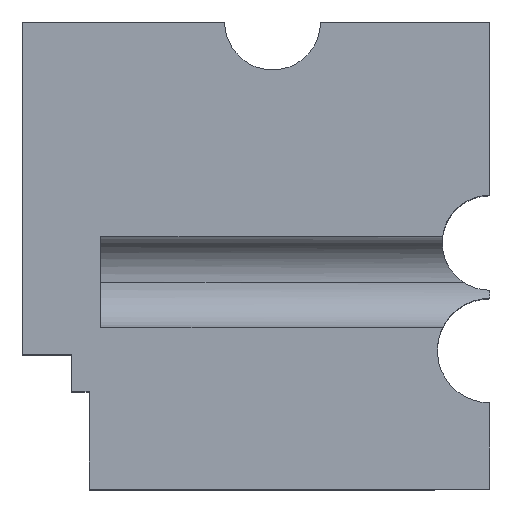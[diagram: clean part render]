
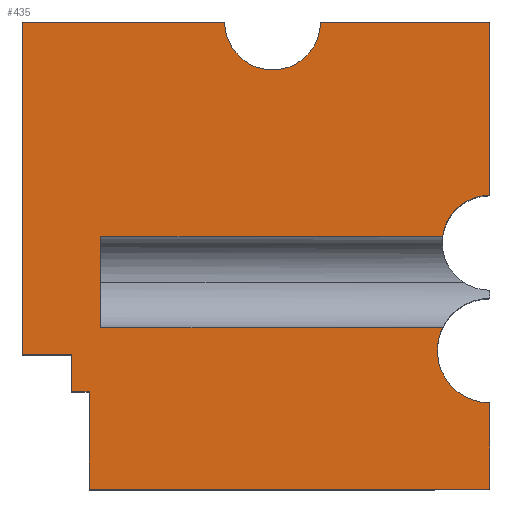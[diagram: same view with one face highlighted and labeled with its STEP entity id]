
A CAD part, top view. The second image highlights one B-rep face of the part: STEP entity #435.
In plain terms, the highlighted planar face has unit normal (0, 0, 1).
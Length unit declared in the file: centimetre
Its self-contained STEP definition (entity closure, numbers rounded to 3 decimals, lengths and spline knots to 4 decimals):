
#21 = EDGE_CURVE ( 'NONE', #414, #811, #715, .T. ) ;
#32 = EDGE_CURVE ( 'NONE', #724, #420, #1019, .T. ) ;
#41 = DIRECTION ( 'NONE',  ( 1., 0., 0. ) ) ;
#55 = CARTESIAN_POINT ( 'NONE',  ( 1000., 629.2492, 1000. ) ) ;
#59 = AXIS2_PLACEMENT_3D ( 'NONE', #555, #784, #863 ) ;
#60 = CARTESIAN_POINT ( 'NONE',  ( 0., 0., 1000. ) ) ;
#61 = VECTOR ( 'NONE', #1093, 100. ) ;
#92 = ORIENTED_EDGE ( 'NONE', *, *, #759, .T. ) ;
#119 = EDGE_CURVE ( 'NONE', #414, #517, #954, .T. ) ;
#131 = ORIENTED_EDGE ( 'NONE', *, *, #349, .T. ) ;
#139 = ORIENTED_EDGE ( 'NONE', *, *, #339, .F. ) ;
#141 = LINE ( 'NONE', #1178, #721 ) ;
#149 = CIRCLE ( 'NONE', #1206, 101.4577 ) ;
#170 = ORIENTED_EDGE ( 'NONE', *, *, #238, .T. ) ;
#173 = CARTESIAN_POINT ( 'NONE',  ( 0., 1000., 1000. ) ) ;
#175 = DIRECTION ( 'NONE',  ( 0., 1., 0. ) ) ;
#178 = DIRECTION ( 'NONE',  ( 0., 0., -1. ) ) ;
#188 = CARTESIAN_POINT ( 'NONE',  ( 142.7733, 0., 1000. ) ) ;
#192 = DIRECTION ( 'NONE',  ( 0., 0., 1. ) ) ;
#201 = EDGE_CURVE ( 'NONE', #641, #541, #677, .T. ) ;
#205 = VECTOR ( 'NONE', #283, 100. ) ;
#231 = ORIENTED_EDGE ( 'NONE', *, *, #1084, .T. ) ;
#236 = ORIENTED_EDGE ( 'NONE', *, *, #1327, .T. ) ;
#238 = EDGE_CURVE ( 'NONE', #946, #1030, #697, .T. ) ;
#249 = EDGE_CURVE ( 'NONE', #620, #1039, #1009, .T. ) ;
#250 = LINE ( 'NONE', #60, #851 ) ;
#264 = DIRECTION ( 'NONE',  ( 1., 0., 0. ) ) ;
#267 = EDGE_CURVE ( 'NONE', #692, #756, #890, .T. ) ;
#275 = CARTESIAN_POINT ( 'NONE',  ( 105.3208, 288.1477, 1000. ) ) ;
#283 = DIRECTION ( 'NONE',  ( -1., 0., 0. ) ) ;
#285 = CARTESIAN_POINT ( 'NONE',  ( 167.8484, 345.3774, 1000. ) ) ;
#305 = EDGE_CURVE ( 'NONE', #517, #831, #141, .T. ) ;
#307 = CARTESIAN_POINT ( 'NONE',  ( 0., 1000., 1000. ) ) ;
#332 = VECTOR ( 'NONE', #175, 100. ) ;
#339 = EDGE_CURVE ( 'NONE', #541, #823, #1081, .T. ) ;
#341 = CARTESIAN_POINT ( 'NONE',  ( 142.7733, 209.0204, 1000. ) ) ;
#342 = CARTESIAN_POINT ( 'NONE',  ( 167.8484, 0., 1000. ) ) ;
#349 = EDGE_CURVE ( 'NONE', #1030, #724, #250, .T. ) ;
#359 = DIRECTION ( 'NONE',  ( -1., 0., 0. ) ) ;
#360 = CARTESIAN_POINT ( 'NONE',  ( 432.8119, 1000., 1000. ) ) ;
#366 = EDGE_CURVE ( 'NONE', #1015, #620, #1291, .T. ) ;
#371 = EDGE_CURVE ( 'NONE', #831, #420, #627, .T. ) ;
#387 = CARTESIAN_POINT ( 'NONE',  ( 0., 0., 1000. ) ) ;
#411 = DIRECTION ( 'NONE',  ( 0., 1., 0. ) ) ;
#414 = VERTEX_POINT ( 'NONE', #1064 ) ;
#420 = VERTEX_POINT ( 'NONE', #1197 ) ;
#424 = CARTESIAN_POINT ( 'NONE',  ( 899.4041, 540.987, 1000. ) ) ;
#435 = ADVANCED_FACE ( 'NONE', ( #646 ), #1008, .T. ) ;
#437 = VECTOR ( 'NONE', #544, 100. ) ;
#470 = CARTESIAN_POINT ( 'NONE',  ( 1000., 527.7915, 1000. ) ) ;
#476 = DIRECTION ( 'NONE',  ( 1., 0., 0. ) ) ;
#477 = CARTESIAN_POINT ( 'NONE',  ( 1000., 1000., 1000. ) ) ;
#483 = CARTESIAN_POINT ( 'NONE',  ( 1000., 0., 1000. ) ) ;
#491 = CARTESIAN_POINT ( 'NONE',  ( 0., 1000., 1000. ) ) ;
#515 = CARTESIAN_POINT ( 'NONE',  ( 0., 1000., 1000. ) ) ;
#517 = VERTEX_POINT ( 'NONE', #285 ) ;
#523 = CARTESIAN_POINT ( 'NONE',  ( 638.0321, 1000., 1000. ) ) ;
#541 = VERTEX_POINT ( 'NONE', #275 ) ;
#544 = DIRECTION ( 'NONE',  ( 1., 0., 0. ) ) ;
#555 = CARTESIAN_POINT ( 'NONE',  ( 1000., 296.813, 1000. ) ) ;
#561 = DIRECTION ( 'NONE',  ( -1., 0., 0. ) ) ;
#588 = ORIENTED_EDGE ( 'NONE', *, *, #201, .F. ) ;
#613 = LINE ( 'NONE', #515, #1027 ) ;
#617 = ORIENTED_EDGE ( 'NONE', *, *, #371, .F. ) ;
#620 = VERTEX_POINT ( 'NONE', #360 ) ;
#627 = CIRCLE ( 'NONE', #59, 111.9192 ) ;
#641 = VERTEX_POINT ( 'NONE', #982 ) ;
#646 = FACE_OUTER_BOUND ( 'NONE', #807, .T. ) ;
#654 = EDGE_CURVE ( 'NONE', #641, #946, #1075, .T. ) ;
#677 = LINE ( 'NONE', #902, #332 ) ;
#692 = VERTEX_POINT ( 'NONE', #55 ) ;
#695 = DIRECTION ( 'NONE',  ( -1., 0., 0. ) ) ;
#697 = LINE ( 'NONE', #188, #702 ) ;
#702 = VECTOR ( 'NONE', #1213, 100. ) ;
#715 = LINE ( 'NONE', #720, #877 ) ;
#720 = CARTESIAN_POINT ( 'NONE',  ( 167.8484, 540.987, 1000. ) ) ;
#721 = VECTOR ( 'NONE', #41, 100. ) ;
#724 = VERTEX_POINT ( 'NONE', #483 ) ;
#738 = ORIENTED_EDGE ( 'NONE', *, *, #249, .T. ) ;
#756 = VERTEX_POINT ( 'NONE', #477 ) ;
#759 = EDGE_CURVE ( 'NONE', #1039, #823, #779, .T. ) ;
#779 = LINE ( 'NONE', #173, #61 ) ;
#784 = DIRECTION ( 'NONE',  ( 0., 0., 1. ) ) ;
#788 = CARTESIAN_POINT ( 'NONE',  ( 1000., 1000., 1000. ) ) ;
#807 = EDGE_LOOP ( 'NONE', ( #139, #588, #1337, #170, #131, #1139, #617, #835, #1231, #1297, #236, #909, #231, #838, #738, #92 ) ) ;
#811 = VERTEX_POINT ( 'NONE', #424 ) ;
#815 = CARTESIAN_POINT ( 'NONE',  ( 1000., 1000., 1000. ) ) ;
#823 = VERTEX_POINT ( 'NONE', #1260 ) ;
#829 = AXIS2_PLACEMENT_3D ( 'NONE', #387, #192, #476 ) ;
#831 = VERTEX_POINT ( 'NONE', #1071 ) ;
#835 = ORIENTED_EDGE ( 'NONE', *, *, #305, .F. ) ;
#838 = ORIENTED_EDGE ( 'NONE', *, *, #366, .T. ) ;
#839 = DIRECTION ( 'NONE',  ( -1., 0., 0. ) ) ;
#851 = VECTOR ( 'NONE', #264, 100. ) ;
#863 = DIRECTION ( 'NONE',  ( 1., 0., 0. ) ) ;
#877 = VECTOR ( 'NONE', #922, 100. ) ;
#890 = LINE ( 'NONE', #788, #1293 ) ;
#894 = VECTOR ( 'NONE', #411, 100. ) ;
#902 = CARTESIAN_POINT ( 'NONE',  ( 105.3208, 104.5102, 1000. ) ) ;
#909 = ORIENTED_EDGE ( 'NONE', *, *, #267, .T. ) ;
#922 = DIRECTION ( 'NONE',  ( 1., 0., 0. ) ) ;
#933 = VECTOR ( 'NONE', #1283, 100. ) ;
#946 = VERTEX_POINT ( 'NONE', #341 ) ;
#954 = LINE ( 'NONE', #342, #933 ) ;
#982 = CARTESIAN_POINT ( 'NONE',  ( 105.3208, 209.0204, 1000. ) ) ;
#1008 = PLANE ( 'NONE',  #829 ) ;
#1009 = LINE ( 'NONE', #491, #205 ) ;
#1015 = VERTEX_POINT ( 'NONE', #523 ) ;
#1019 = LINE ( 'NONE', #815, #894 ) ;
#1027 = VECTOR ( 'NONE', #839, 100. ) ;
#1030 = VERTEX_POINT ( 'NONE', #1253 ) ;
#1039 = VERTEX_POINT ( 'NONE', #307 ) ;
#1064 = CARTESIAN_POINT ( 'NONE',  ( 167.8484, 540.987, 1000. ) ) ;
#1071 = CARTESIAN_POINT ( 'NONE',  ( 899.1664, 345.3774, 1000. ) ) ;
#1073 = CARTESIAN_POINT ( 'NONE',  ( 535.422, 1000., 1000. ) ) ;
#1074 = AXIS2_PLACEMENT_3D ( 'NONE', #1073, #1186, #359 ) ;
#1075 = LINE ( 'NONE', #1179, #437 ) ;
#1081 = LINE ( 'NONE', #1304, #1243 ) ;
#1084 = EDGE_CURVE ( 'NONE', #756, #1015, #613, .T. ) ;
#1093 = DIRECTION ( 'NONE',  ( 0., -1., 0. ) ) ;
#1139 = ORIENTED_EDGE ( 'NONE', *, *, #32, .T. ) ;
#1178 = CARTESIAN_POINT ( 'NONE',  ( 167.8484, 345.3774, 1000. ) ) ;
#1179 = CARTESIAN_POINT ( 'NONE',  ( 0., 209.0204, 1000. ) ) ;
#1186 = DIRECTION ( 'NONE',  ( 0., 0., -1. ) ) ;
#1197 = CARTESIAN_POINT ( 'NONE',  ( 1000., 184.8938, 1000. ) ) ;
#1206 = AXIS2_PLACEMENT_3D ( 'NONE', #470, #178, #695 ) ;
#1207 = DIRECTION ( 'NONE',  ( 0., 1., 0. ) ) ;
#1213 = DIRECTION ( 'NONE',  ( 0., -1., 0. ) ) ;
#1231 = ORIENTED_EDGE ( 'NONE', *, *, #119, .F. ) ;
#1243 = VECTOR ( 'NONE', #561, 100. ) ;
#1253 = CARTESIAN_POINT ( 'NONE',  ( 142.7733, 0., 1000. ) ) ;
#1260 = CARTESIAN_POINT ( 'NONE',  ( 0., 288.1477, 1000. ) ) ;
#1283 = DIRECTION ( 'NONE',  ( 0., -1., 0. ) ) ;
#1291 = CIRCLE ( 'NONE', #1074, 102.6101 ) ;
#1293 = VECTOR ( 'NONE', #1207, 100. ) ;
#1297 = ORIENTED_EDGE ( 'NONE', *, *, #21, .T. ) ;
#1304 = CARTESIAN_POINT ( 'NONE',  ( 0., 288.1477, 1000. ) ) ;
#1327 = EDGE_CURVE ( 'NONE', #811, #692, #149, .T. ) ;
#1337 = ORIENTED_EDGE ( 'NONE', *, *, #654, .T. ) ;
